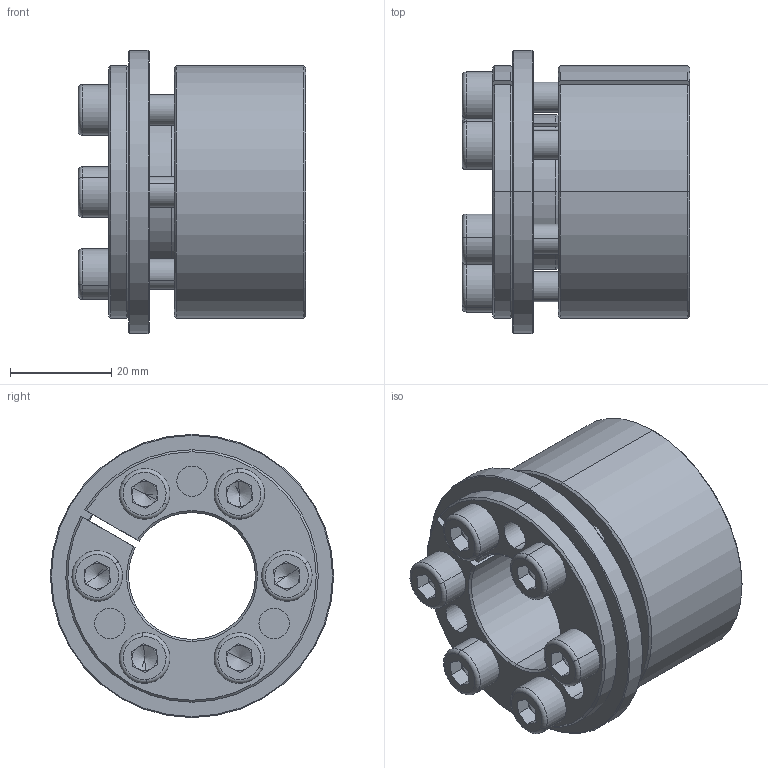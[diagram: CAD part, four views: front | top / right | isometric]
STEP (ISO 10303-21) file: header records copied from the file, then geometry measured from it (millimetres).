
FILE_DESCRIPTION (( 'STEP AP214' ), '1' );
FILE_NAME ('H5×°ÅäÌå25-50.STEP', '2022-07-26T01:59:55', ( '' ), ( '' ), 'SwSTEP 2.0', 'SolidWorks 2022', '' );
FILE_SCHEMA (( 'AUTOMOTIVE_DESIGN' ));
Length unit declared in the file: millimetre
Products named in the file (1): H5蚾饜极25-50
Bounding box: 45 x 56 x 56 mm (x, y, z)
Volume: 51715.5 mm3; surface area: 22655.1 mm2
Topology: 1 solids, 1 shells, 253 faces, 619 edges, 380 vertices
Faces by surface type: plane 100, cylinder 73, cone 68, torus 12
Entity records: 7478 total; most frequent: DIRECTION 1382, CARTESIAN_POINT 1313, ORIENTED_EDGE 1214, EDGE_CURVE 607, AXIS2_PLACEMENT_3D 545, VERTEX_POINT 380, EDGE_LOOP 297, VECTOR 292
